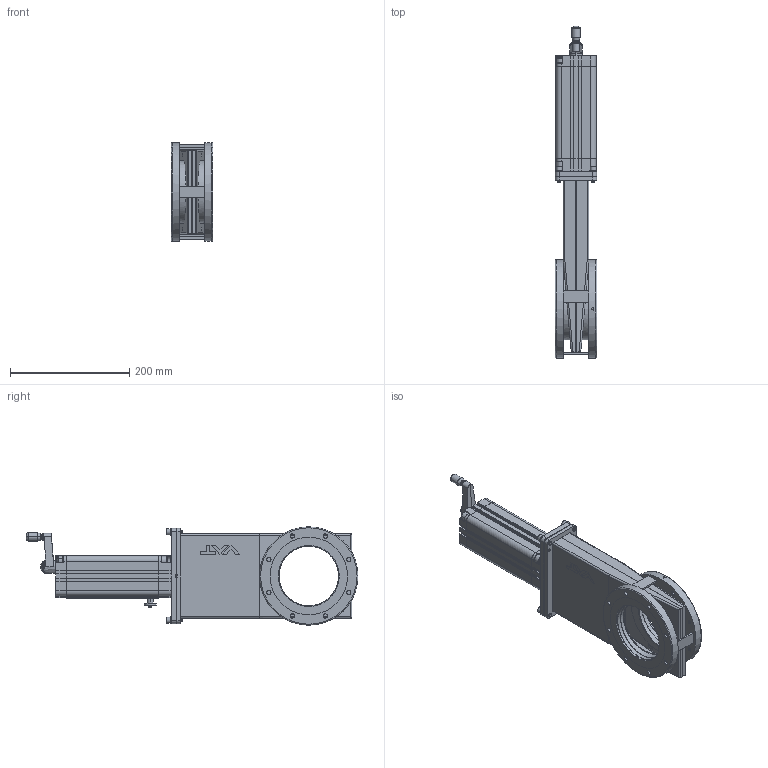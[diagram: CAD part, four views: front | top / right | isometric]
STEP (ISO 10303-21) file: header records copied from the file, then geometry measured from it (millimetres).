
FILE_DESCRIPTION(/* description */ (''),/* implementation_level */ '2;1');
FILE_NAME(/* name */ '1008088610_203',/* time_stamp */ '2009-11-20T10:17:12+01:00',/* author */ (''),/* organization */ (''),/* preprocessor_version */ 'ST-DEVELOPER v11',/* originating_system */ 'UGS - NX 5.0',/* authorisation */ '');
FILE_SCHEMA (('CONFIG_CONTROL_DESIGN'));
Length unit declared in the file: millimetre
Products named in the file (27): 301626.1; 342971.1; 343006.1; N-6092-118.1; 251086.3; n-6134-408; 218189; n-6195-408; 260826.1; 307120.3; 259432.1; 250214.4; N-7100-246.2; 260719.2; 332680.2; 374503.1; 301646.1; 260722.6; 260718.3; 251262.4; 374501.1; 307121.7; 251257.9; 259597.1; 343008.1; 251409.4; 261251.16
Assembly tree (41 placements, depth 3):
  261251.16
    251409.4
      251086.3
      N-6092-118.1  x2
    259597.1  x4
    251257.9
    307121.7
    374501.1  x2
    251262.4  x3
    260718.3
    260722.6
    301646.1
    374503.1  x2
    332680.2
    260719.2
    N-7100-246.2
    250214.4
    259432.1
    307120.3
    260826.1
    n-6195-408
    218189  x4
    n-6134-408  x4
    343008.1
      343006.1
      342971.1  x2
      301626.1
Bounding box: 70 x 556.56 x 164.8 mm (x, y, z)
Volume: 1195146.1 mm3; surface area: 525735.8 mm2
Topology: 49 solids, 49 shells, 1446 faces, 3639 edges, 2358 vertices
Faces by surface type: plane 784, cylinder 377, revolution 94, bspline 78, cone 59, extrusion 44, torus 6, sphere 4
Full cylindrical faces by diameter (mm): 2.2 x1, 3.17 x1, 4 x2, 4.96 x4, 4.976 x2, 4.985 x1, 5 x8, 5.124 x2, 5.22 x4, 5.3 x1, 6 x12, 6.4 x4, 6.5 x10, 6.8 x16, 7.2 x8, 8 x8, 10 x4, 10.008 x1, 10.4 x4, 11 x6, 11.5 x4, 12 x2, 14 x3, 15 x1, 15.2 x1, 16 x1, 16.2 x1, 21.976 x1, 23 x1, 25.345 x1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
Entity records: 39549 total; most frequent: CARTESIAN_POINT 10143, ORIENTED_EDGE 5274, DIRECTION 5201, EDGE_CURVE 2637, VERTEX_POINT 1805, AXIS2_PLACEMENT_3D 1772, VECTOR 1605, LINE 1561
